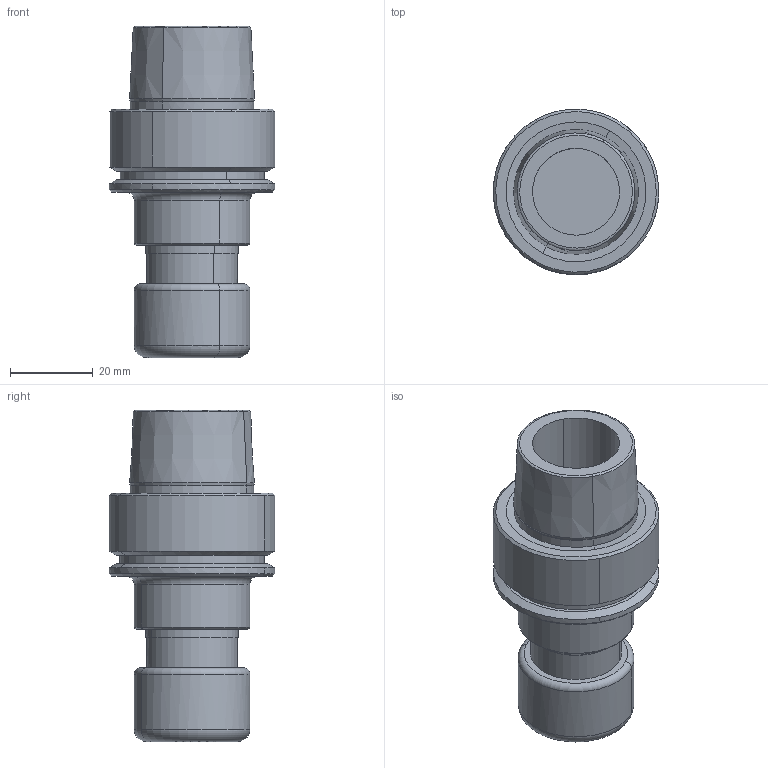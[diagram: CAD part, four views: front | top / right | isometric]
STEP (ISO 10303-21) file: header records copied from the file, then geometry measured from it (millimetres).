
FILE_DESCRIPTION(('CATIA V5 STEP','CAx-IF Rec.Pracs.--- Model Styling and Organization---1.2---2011-12-15'),'2;1');
FILE_NAME('C:\Users\weaams\Desktop\888.stp','2016-03-10T12:51:51+00:00',('none'),('none'),'CATIA Version 5 Release 21 SP 5 (IN-10)','CATIA V5 STEP AP214','none');
FILE_SCHEMA(('AUTOMOTIVE_DESIGN { 1 0 10303 214 1 1 1 1 }'));
Length unit declared in the file: millimetre
Products named in the file (1): HSK E 40 ER16X 60
Bounding box: 39.97 x 40 x 80 mm (x, y, z)
Volume: 44863.9 mm3; surface area: 14108.2 mm2
Topology: 1 solids, 1 shells, 66 faces, 138 edges, 81 vertices
Faces by surface type: cylinder 24, cone 20, torus 12, plane 10
Entity records: 1796 total; most frequent: CARTESIAN_POINT 409, ORIENTED_EDGE 272, DIRECTION 259, AXIS2_PLACEMENT_3D 149, EDGE_CURVE 136, CIRCLE 81, VERTEX_POINT 81, EDGE_LOOP 75
